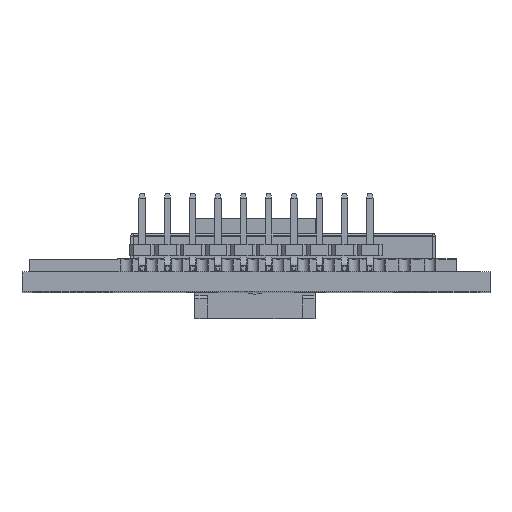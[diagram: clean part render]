
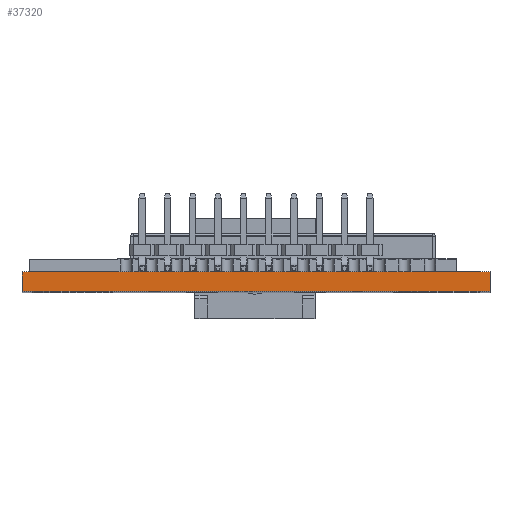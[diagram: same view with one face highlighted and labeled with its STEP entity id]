
A CAD part, top view. The second image highlights one B-rep face of the part: STEP entity #37320.
In plain terms, the highlighted planar face has unit normal (0, 0, 1).
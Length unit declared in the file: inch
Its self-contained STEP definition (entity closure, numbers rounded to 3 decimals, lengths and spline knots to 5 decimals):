
#5031 = CARTESIAN_POINT ( 'NONE',  ( 0., 0., 0. ) ) ;
#8951 = DIRECTION ( 'NONE',  ( 1., 0., 0. ) ) ;
#11818 = LINE ( 'NONE', #5031, #42462 ) ;
#12046 = CARTESIAN_POINT ( 'NONE',  ( 0., 0.06, 0. ) ) ;
#12096 = CARTESIAN_POINT ( 'NONE',  ( 1.457, 0.06, 0. ) ) ;
#16670 = DIRECTION ( 'NONE',  ( 0., -1., 0. ) ) ;
#17940 = LINE ( 'NONE', #45716, #50498 ) ;
#18240 = VECTOR ( 'NONE', #16670, 39.37008 ) ;
#23038 = VECTOR ( 'NONE', #74347, 39.37008 ) ;
#24110 = EDGE_CURVE ( 'NONE', #25818, #28447, #69874, .T. ) ;
#25818 = VERTEX_POINT ( 'NONE', #12046 ) ;
#28447 = VERTEX_POINT ( 'NONE', #45730 ) ;
#29106 = DIRECTION ( 'NONE',  ( -1., 0., 0. ) ) ;
#29182 = EDGE_CURVE ( 'NONE', #74396, #71294, #34562, .T. ) ;
#30092 = CARTESIAN_POINT ( 'NONE',  ( 1.457, 0., 0. ) ) ;
#34562 = LINE ( 'NONE', #71464, #18240 ) ;
#37320 = ADVANCED_FACE ( 'NONE', ( #51552 ), #53409, .F. ) ;
#37438 = ORIENTED_EDGE ( 'NONE', *, *, #24110, .T. ) ;
#37994 = CARTESIAN_POINT ( 'NONE',  ( 0., 0.06, 0. ) ) ;
#39087 = ORIENTED_EDGE ( 'NONE', *, *, #29182, .F. ) ;
#39253 = EDGE_LOOP ( 'NONE', ( #64120, #39087, #70235, #37438 ) ) ;
#42462 = VECTOR ( 'NONE', #54052, 39.37008 ) ;
#45716 = CARTESIAN_POINT ( 'NONE',  ( 0., 0.06, 0. ) ) ;
#45730 = CARTESIAN_POINT ( 'NONE',  ( 0., 0., 0. ) ) ;
#50498 = VECTOR ( 'NONE', #8951, 39.37008 ) ;
#51552 = FACE_OUTER_BOUND ( 'NONE', #39253, .T. ) ;
#53409 = PLANE ( 'NONE',  #74876 ) ;
#54052 = DIRECTION ( 'NONE',  ( 1., 0., 0. ) ) ;
#59538 = CARTESIAN_POINT ( 'NONE',  ( 0., 0.06, 0. ) ) ;
#64120 = ORIENTED_EDGE ( 'NONE', *, *, #78995, .T. ) ;
#65646 = DIRECTION ( 'NONE',  ( 0., 0., -1. ) ) ;
#69874 = LINE ( 'NONE', #37994, #23038 ) ;
#70235 = ORIENTED_EDGE ( 'NONE', *, *, #77204, .F. ) ;
#71294 = VERTEX_POINT ( 'NONE', #30092 ) ;
#71464 = CARTESIAN_POINT ( 'NONE',  ( 1.457, 0.06, 0. ) ) ;
#74347 = DIRECTION ( 'NONE',  ( 0., -1., 0. ) ) ;
#74396 = VERTEX_POINT ( 'NONE', #12096 ) ;
#74876 = AXIS2_PLACEMENT_3D ( 'NONE', #59538, #65646, #29106 ) ;
#77204 = EDGE_CURVE ( 'NONE', #25818, #74396, #17940, .T. ) ;
#78995 = EDGE_CURVE ( 'NONE', #28447, #71294, #11818, .T. ) ;
